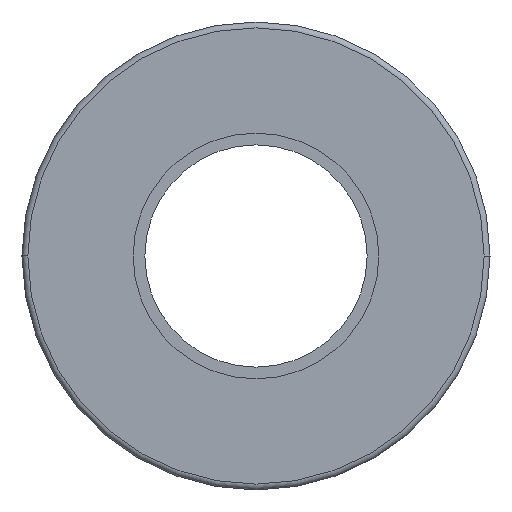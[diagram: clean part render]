
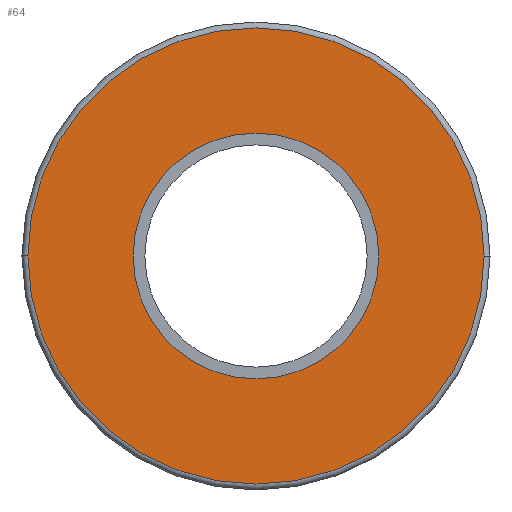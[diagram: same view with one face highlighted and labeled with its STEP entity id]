
A CAD part, left-side view. The second image highlights one B-rep face of the part: STEP entity #64.
In plain terms, the highlighted planar face has unit normal (-1, 0, 0).
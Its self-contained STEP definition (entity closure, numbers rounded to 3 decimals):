
#3 = DIRECTION ( 'NONE',  ( 1., 0., 0. ) ) ;
#14 = VERTEX_POINT ( 'NONE', #175 ) ;
#64 = ADVANCED_FACE ( 'NONE', ( #156, #869 ), #785, .T. ) ;
#84 = CARTESIAN_POINT ( 'NONE',  ( 0., 0., 0. ) ) ;
#112 = VERTEX_POINT ( 'NONE', #492 ) ;
#120 = CIRCLE ( 'NONE', #1027, 7.8 ) ;
#125 = CARTESIAN_POINT ( 'NONE',  ( 0., 0., 0. ) ) ;
#156 = FACE_BOUND ( 'NONE', #1150, .T. ) ;
#167 = CARTESIAN_POINT ( 'NONE',  ( 0., -7.8, 0. ) ) ;
#175 = CARTESIAN_POINT ( 'NONE',  ( 0., 7.8, 0. ) ) ;
#204 = DIRECTION ( 'NONE',  ( 0., 0., 1. ) ) ;
#228 = EDGE_CURVE ( 'NONE', #409, #14, #120, .T. ) ;
#234 = DIRECTION ( 'NONE',  ( 1., 0., 0. ) ) ;
#239 = CARTESIAN_POINT ( 'NONE',  ( 0., 0., 4.2 ) ) ;
#257 = ORIENTED_EDGE ( 'NONE', *, *, #228, .T. ) ;
#259 = EDGE_LOOP ( 'NONE', ( #257, #298 ) ) ;
#272 = AXIS2_PLACEMENT_3D ( 'NONE', #84, #388, #204 ) ;
#298 = ORIENTED_EDGE ( 'NONE', *, *, #461, .T. ) ;
#370 = ORIENTED_EDGE ( 'NONE', *, *, #630, .T. ) ;
#388 = DIRECTION ( 'NONE',  ( -1., 0., 0. ) ) ;
#409 = VERTEX_POINT ( 'NONE', #167 ) ;
#433 = CARTESIAN_POINT ( 'NONE',  ( 0., 0., 0. ) ) ;
#461 = EDGE_CURVE ( 'NONE', #14, #409, #672, .T. ) ;
#490 = EDGE_CURVE ( 'NONE', #612, #112, #625, .T. ) ;
#492 = CARTESIAN_POINT ( 'NONE',  ( 0., 0., -4.2 ) ) ;
#511 = CARTESIAN_POINT ( 'NONE',  ( 0., 0., 0. ) ) ;
#612 = VERTEX_POINT ( 'NONE', #239 ) ;
#625 = CIRCLE ( 'NONE', #865, 4.2 ) ;
#630 = EDGE_CURVE ( 'NONE', #112, #612, #1171, .T. ) ;
#672 = CIRCLE ( 'NONE', #272, 7.8 ) ;
#785 = PLANE ( 'NONE',  #961 ) ;
#800 = ORIENTED_EDGE ( 'NONE', *, *, #490, .T. ) ;
#841 = DIRECTION ( 'NONE',  ( -1., 0., 0. ) ) ;
#846 = DIRECTION ( 'NONE',  ( 0., 0., -1. ) ) ;
#865 = AXIS2_PLACEMENT_3D ( 'NONE', #511, #3, #1109 ) ;
#869 = FACE_OUTER_BOUND ( 'NONE', #259, .T. ) ;
#959 = DIRECTION ( 'NONE',  ( -1., 0., 0. ) ) ;
#961 = AXIS2_PLACEMENT_3D ( 'NONE', #1271, #959, #1187 ) ;
#1027 = AXIS2_PLACEMENT_3D ( 'NONE', #125, #841, #1246 ) ;
#1109 = DIRECTION ( 'NONE',  ( 0., 0., -1. ) ) ;
#1150 = EDGE_LOOP ( 'NONE', ( #370, #800 ) ) ;
#1171 = CIRCLE ( 'NONE', #1234, 4.2 ) ;
#1187 = DIRECTION ( 'NONE',  ( 0., 0., 1. ) ) ;
#1234 = AXIS2_PLACEMENT_3D ( 'NONE', #433, #234, #846 ) ;
#1246 = DIRECTION ( 'NONE',  ( 0., 0., 1. ) ) ;
#1271 = CARTESIAN_POINT ( 'NONE',  ( 0., 0., -4. ) ) ;
